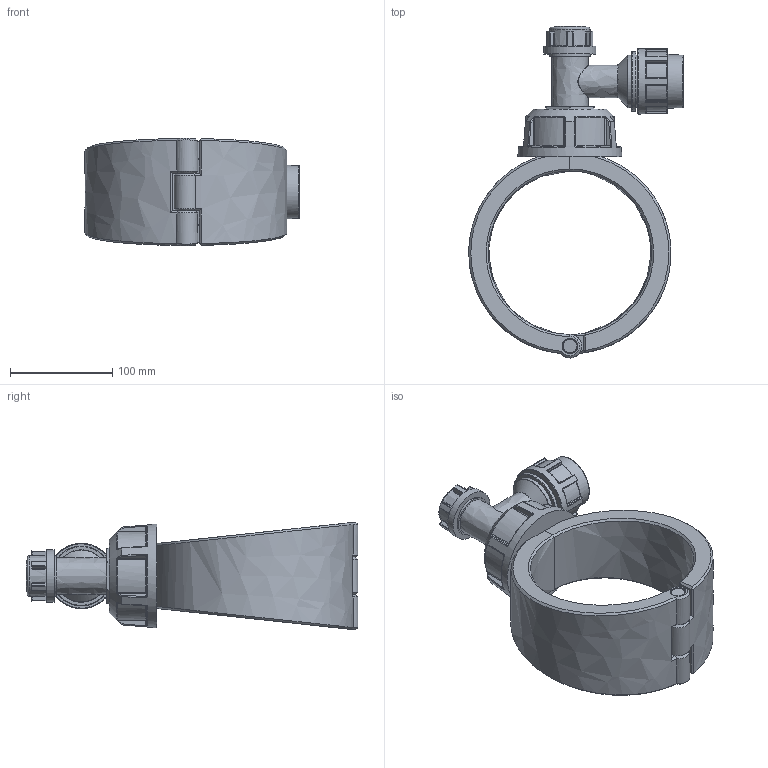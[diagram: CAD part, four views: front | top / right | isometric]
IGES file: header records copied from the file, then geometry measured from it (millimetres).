
Global section: file name: 163100180032_1631061800320A; native system: Autodesk Inventor 2019; preprocessor: unknown; author: comp2; date: 20220203.115851; units: millimetre
Bounding box: 210 x 324.99 x 105.57 mm (x, y, z)
Volume: 1433364.6 mm3; surface area: 190571.8 mm2
Topology: 4 solids, 4 shells, 519 faces, 1253 edges, 754 vertices
Faces by surface type: bspline 519
